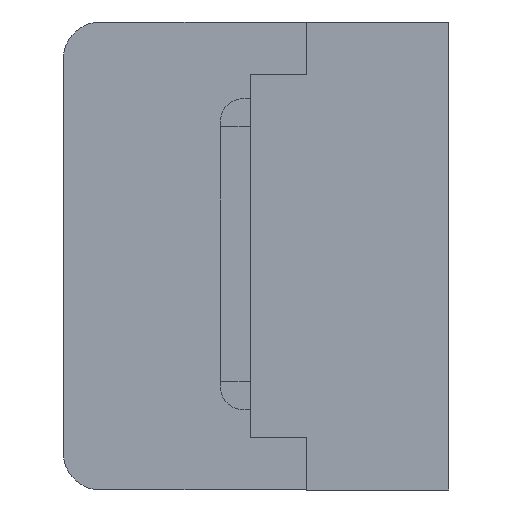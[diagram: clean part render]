
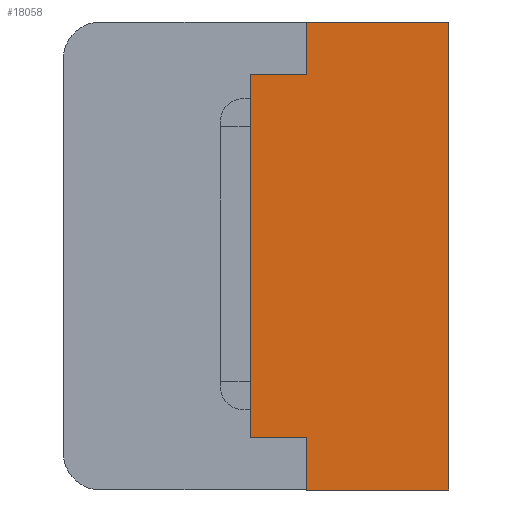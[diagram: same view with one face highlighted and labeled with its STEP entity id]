
A CAD part, left-side view. The second image highlights one B-rep face of the part: STEP entity #18058.
In plain terms, the highlighted planar face has unit normal (-1, 0, 0).
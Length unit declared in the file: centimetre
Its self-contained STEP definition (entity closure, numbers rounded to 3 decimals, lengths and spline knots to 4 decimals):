
#1152=PLANE('',#29675);
#1872=VECTOR('',#19319,1.);
#1949=VECTOR('',#19431,1.);
#1951=VECTOR('',#19436,1.);
#1972=VECTOR('',#19458,1.);
#2809=VECTOR('',#21372,1.);
#2810=VECTOR('',#21373,1.);
#2811=VECTOR('',#21374,1.);
#2812=VECTOR('',#21375,1.);
#3788=LINE('',#24037,#1872);
#3865=LINE('',#24206,#1949);
#3867=LINE('',#24212,#1951);
#3888=LINE('',#24253,#1972);
#4725=LINE('',#27172,#2809);
#4726=LINE('',#27174,#2810);
#4727=LINE('',#27175,#2811);
#4728=LINE('',#27177,#2812);
#5640=VERTEX_POINT('',#24036);
#5641=VERTEX_POINT('',#24038);
#5682=VERTEX_POINT('',#24154);
#5707=VERTEX_POINT('',#24205);
#5709=VERTEX_POINT('',#24211);
#5729=VERTEX_POINT('',#24254);
#6542=VERTEX_POINT('',#27173);
#6543=VERTEX_POINT('',#27176);
#7965=EDGE_CURVE('',#5640,#5641,#3788,.T.);
#8049=EDGE_CURVE('',#5707,#5682,#3865,.T.);
#8052=EDGE_CURVE('',#5682,#5709,#3867,.T.);
#8073=EDGE_CURVE('',#5709,#5729,#3888,.T.);
#9330=EDGE_CURVE('',#6542,#5707,#4725,.T.);
#9331=EDGE_CURVE('',#5641,#6542,#4726,.T.);
#9332=EDGE_CURVE('',#6543,#5640,#4727,.T.);
#9333=EDGE_CURVE('',#5729,#6543,#4728,.T.);
#14111=ORIENTED_EDGE('',*,*,#9330,.F.);
#14112=ORIENTED_EDGE('',*,*,#9331,.F.);
#14113=ORIENTED_EDGE('',*,*,#7965,.F.);
#14114=ORIENTED_EDGE('',*,*,#9332,.F.);
#14115=ORIENTED_EDGE('',*,*,#9333,.F.);
#14116=ORIENTED_EDGE('',*,*,#8073,.F.);
#14117=ORIENTED_EDGE('',*,*,#8052,.F.);
#14118=ORIENTED_EDGE('',*,*,#8049,.F.);
#15981=EDGE_LOOP('',(#14111,#14112,#14113,#14114,#14115,#14116,#14117,#14118));
#17055=FACE_BOUND('',#15981,.T.);
#18058=ADVANCED_FACE('',(#17055),#1152,.F.);
#19319=DIRECTION('',(0.,0.,1.));
#19431=DIRECTION('',(0.,-1.,0.));
#19436=DIRECTION('',(0.,0.,-1.));
#19458=DIRECTION('',(0.,1.,0.));
#21371=DIRECTION('',(1.,0.,0.));
#21372=DIRECTION('',(0.,0.,1.));
#21373=DIRECTION('',(0.,-1.,0.));
#21374=DIRECTION('',(0.,1.,0.));
#21375=DIRECTION('',(0.,0.,1.));
#24036=CARTESIAN_POINT('',(-1.382,0.53,-0.485));
#24037=CARTESIAN_POINT('',(-1.382,0.53,-0.485));
#24038=CARTESIAN_POINT('',(-1.382,0.53,0.485));
#24154=CARTESIAN_POINT('',(-1.382,0.,0.625));
#24205=CARTESIAN_POINT('',(-1.382,0.38,0.625));
#24206=CARTESIAN_POINT('',(-1.382,0.38,0.625));
#24211=CARTESIAN_POINT('',(-1.382,0.,-0.625));
#24212=CARTESIAN_POINT('',(-1.382,0.,0.625));
#24253=CARTESIAN_POINT('',(-1.382,0.,-0.625));
#24254=CARTESIAN_POINT('',(-1.382,0.38,-0.625));
#27171=CARTESIAN_POINT('',(-1.382,0.2532,0.));
#27172=CARTESIAN_POINT('',(-1.382,0.38,0.485));
#27173=CARTESIAN_POINT('',(-1.382,0.38,0.485));
#27174=CARTESIAN_POINT('',(-1.382,0.53,0.485));
#27175=CARTESIAN_POINT('',(-1.382,0.38,-0.485));
#27176=CARTESIAN_POINT('',(-1.382,0.38,-0.485));
#27177=CARTESIAN_POINT('',(-1.382,0.38,-0.625));
#29675=AXIS2_PLACEMENT_3D('',#27171,#21371,$);
